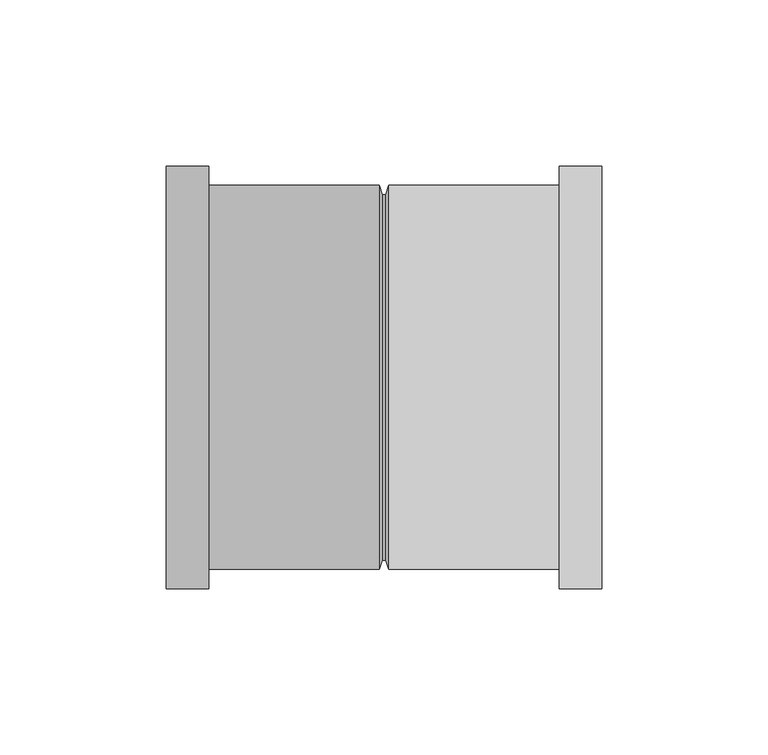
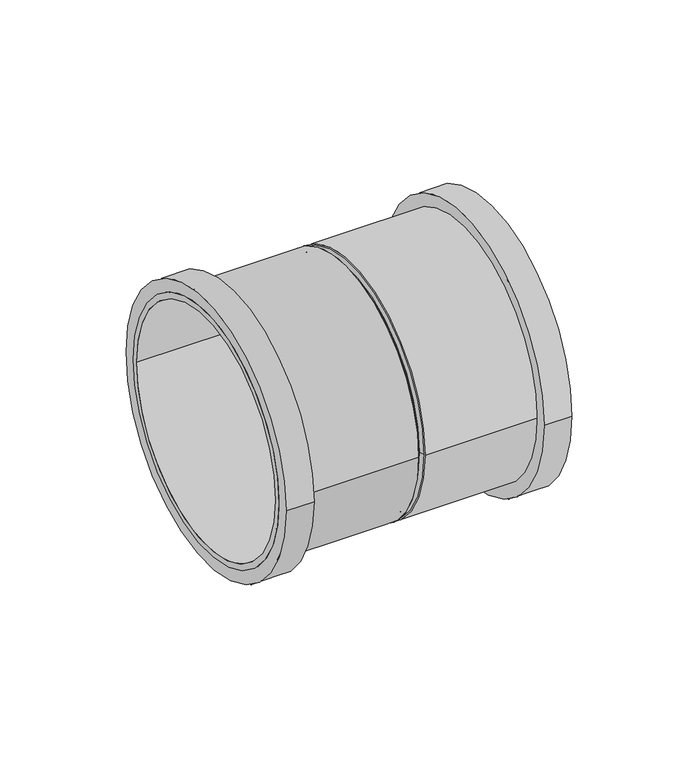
"""IFC4 building model written with IfcOpenShell, lengths in millimetres: pipe fitting geometry, Superdrain HTMM-Double socket : Superdrain HTMM-Double socket."""

import ifcopenshell
import ifcopenshell.guid

model = None  # the IFC model being written
_history = None  # IfcOwnerHistory: only IFC2X3 demands one
_inside = {}  # id of a spatial element -> (the spatial element, [elements in it])
_under = {}  # id of a project, library or spatial element -> (it, [spatial elements below it])
_declared = {}  # id of a project -> (the project, [libraries it declares])
_typed = {}  # id of a type object -> (the type object, [elements of that type])
_made_of = {}  # id of a material, layer set ... -> (it, [elements and type objects made of it])


def new_model(schema):
    """Start an empty IFC model of exactly this schema.

    Asked for "IFC4X3", IfcOpenShell would pick the latest addendum, in which some entities
    have other attributes; the version numbers below select the first issue.
    IFC2X3 requires an IfcOwnerHistory on every rooted entity: one is made here for all.
    """
    global model, _history
    if schema == "IFC4X3":
        model = ifcopenshell.file(schema_version=(4, 3, 0, 0))
    else:
        model = ifcopenshell.file(schema=schema)
    _inside.clear()
    _under.clear()
    _declared.clear()
    _typed.clear()
    _made_of.clear()
    _history = None
    if model.schema == "IFC2X3":
        org = make("IfcOrganization", Name="unknown")
        user = make(
            "IfcPersonAndOrganization",
            ThePerson=make("IfcPerson", FamilyName="unknown"),
            TheOrganization=org,
        )
        app = make(
            "IfcApplication",
            ApplicationDeveloper=org,
            Version="unknown",
            ApplicationFullName="unknown",
            ApplicationIdentifier="unknown",
        )
        _history = make(
            "IfcOwnerHistory",
            OwningUser=user,
            OwningApplication=app,
            ChangeAction="ADDED",
            CreationDate=0,
        )
    return model


def make(cls, **values):
    """One entity of the class cls with the attributes given. An attribute that is None is left unset."""
    return model.create_entity(
        cls, **{name: value for name, value in values.items() if value is not None}
    )


def rooted(cls, **values):
    """An entity with a GlobalId (a new one), such as an element, a storey or a relation."""
    return make(cls, GlobalId=ifcopenshell.guid.new(), OwnerHistory=_history, **values)


def si_unit(unit_type, name, prefix=None):
    """IfcSIUnit, for example si_unit("LENGTHUNIT", "METRE", prefix="MILLI")."""
    return make("IfcSIUnit", UnitType=unit_type, Prefix=prefix, Name=name)


def assignment(units):
    """IfcUnitAssignment: the units of a project."""
    return None if units is None else make("IfcUnitAssignment", Units=units)


def point(xyz):
    """IfcCartesianPoint."""
    return None if xyz is None else make("IfcCartesianPoint", Coordinates=xyz)


def direction(xyz):
    """IfcDirection."""
    return None if xyz is None else make("IfcDirection", DirectionRatios=xyz)


def frame(location, z_axis=None, x_axis=None):
    """IfcAxis2Placement3D, a coordinate frame: its origin and axes. An axis left out is left unset."""
    return make(
        "IfcAxis2Placement3D",
        Location=point(location),
        Axis=direction(z_axis),
        RefDirection=direction(x_axis),
    )


def frame_2d(location, x_axis=None):
    """IfcAxis2Placement2D, a coordinate frame in the plane: its origin and x axis."""
    return make(
        "IfcAxis2Placement2D", Location=point(location), RefDirection=direction(x_axis)
    )


def origin():
    """The frame at (0, 0, 0) with its axes left unset."""
    return frame((0.0, 0.0, 0.0))


def origin_2d():
    """The frame at (0, 0) in the plane with its x axis left unset."""
    return frame_2d((0.0, 0.0))


def place(relative_to, where):
    """IfcLocalPlacement: puts the frame where relative to a parent placement (None: the world)."""
    return make(
        "IfcLocalPlacement", PlacementRelTo=relative_to, RelativePlacement=where
    )


def context(
    kind, dimensions, precision=None, world=None, true_north=None, identifier=None
):
    """IfcGeometricRepresentationContext, for example the 3D "Model" context."""
    return make(
        "IfcGeometricRepresentationContext",
        ContextIdentifier=identifier,
        ContextType=kind,
        CoordinateSpaceDimension=dimensions,
        Precision=precision,
        WorldCoordinateSystem=world,
        TrueNorth=true_north,
    )


def project(units=None, contexts=None):
    """IfcProject with its units and contexts."""
    return rooted(
        "IfcProject",
        Name="project",
        RepresentationContexts=contexts,
        UnitsInContext=assignment(units),
    )


def spatial(cls, under=None, at=None, **own):
    """A site, building, storey or space (cls), placed at a placement, below another one or the project."""
    s = rooted(cls, ObjectPlacement=at, **own)
    if under is not None:
        _under.setdefault(under.id(), (under, []))[1].append(s)
    return s


def polyline(points):
    """IfcPolyline through the points."""
    return make("IfcPolyline", Points=[point(p) for p in points])


def circle_curve(where, radius):
    """IfcCircle in the frame where."""
    return make("IfcCircle", Position=where, Radius=radius)


def trimmed(basis, trim1, trim2, sense, master):
    """IfcTrimmedCurve: the piece of a basis curve between two trims."""
    return make(
        "IfcTrimmedCurve",
        BasisCurve=basis,
        Trim1=trim1,
        Trim2=trim2,
        SenseAgreement=sense,
        MasterRepresentation=master,
    )


def segment(curve, same_sense, transition):
    """IfcCompositeCurveSegment."""
    return make(
        "IfcCompositeCurveSegment",
        Transition=transition,
        SameSense=same_sense,
        ParentCurve=curve,
    )


def composite_curve(segments, self_intersect=None):
    """IfcCompositeCurve: segments joined end to end."""
    return make("IfcCompositeCurve", Segments=segments, SelfIntersect=self_intersect)


def outline(outer, holes=None, kind="AREA"):
    """IfcArbitraryClosedProfileDef: a profile drawn as a closed curve; with holes, ...WithVoids."""
    if holes is None:
        return make("IfcArbitraryClosedProfileDef", ProfileType=kind, OuterCurve=outer)
    return make(
        "IfcArbitraryProfileDefWithVoids",
        ProfileType=kind,
        OuterCurve=outer,
        InnerCurves=holes,
    )


def extrude(swept, where, along, depth):
    """IfcExtrudedAreaSolid: the profile swept, set in the frame where, extruded along a direction by depth."""
    return make(
        "IfcExtrudedAreaSolid",
        SweptArea=swept,
        Position=where,
        ExtrudedDirection=direction(along),
        Depth=depth,
    )


def shape(context_of_items, identifier, shape_type, items):
    """IfcShapeRepresentation: the items that make up one representation, for example the "Body"."""
    return make(
        "IfcShapeRepresentation",
        ContextOfItems=context_of_items,
        RepresentationIdentifier=identifier,
        RepresentationType=shape_type,
        Items=items,
    )


def source(mapping_origin, context_of_items, identifier, shape_type, items):
    """IfcRepresentationMap: a shape defined once, which mapped items show again and again."""
    return make(
        "IfcRepresentationMap",
        MappingOrigin=mapping_origin,
        MappedRepresentation=shape(context_of_items, identifier, shape_type, items),
    )


def transform(
    local_origin,
    x_axis=None,
    y_axis=None,
    z_axis=None,
    scale=None,
    scale2=None,
    scale3=None,
    uniform=True,
):
    """IfcCartesianTransformationOperator3D, or its non-uniform kind. x_axis, y_axis, z_axis: its Axis1, 2, 3."""
    if uniform:
        return make(
            "IfcCartesianTransformationOperator3D",
            Axis1=direction(x_axis),
            Axis2=direction(y_axis),
            LocalOrigin=point(local_origin),
            Scale=scale,
            Axis3=direction(z_axis),
        )
    return make(
        "IfcCartesianTransformationOperator3DnonUniform",
        Axis1=direction(x_axis),
        Axis2=direction(y_axis),
        LocalOrigin=point(local_origin),
        Scale=scale,
        Axis3=direction(z_axis),
        Scale2=scale2,
        Scale3=scale3,
    )


def mapped(mapping_source, mapping_target):
    """IfcMappedItem: shows the shape of a source again, moved by a transform."""
    return make(
        "IfcMappedItem", MappingSource=mapping_source, MappingTarget=mapping_target
    )


def made_of(thing, what):
    """Note that an element or type object is made of a material, layer set ...; save() writes the relation."""
    if what is not None:
        _made_of.setdefault(what.id(), (what, []))[1].append(thing)
    return thing


def element(
    cls,
    number,
    at=None,
    inside=None,
    cuts=None,
    type_object=None,
    material=None,
    context=None,
    identifier="Body",
    shape_type=None,
    held_by="IfcProductDefinitionShape",
    body=None,
    shapes=None,
    **own,
):
    """One element of the class cls, such as IfcWall. Its Tag is "e" and its number.

    at: its placement. inside: the storey or other place that contains it. cuts: it is an
    opening in that element (IfcRelVoidsElement). A single representation is given by context,
    identifier, shape_type and body (its items); several are given by shapes. held_by: the class
    of the entity that holds the representations. save() writes the other relations.
    """
    e = rooted(cls, Tag="e%d" % number, ObjectPlacement=at, **own)
    if body is not None:
        shapes = [shape(context, identifier, shape_type, body)]
    if shapes is not None:
        e.Representation = make(held_by, Representations=shapes)
    if inside is not None:
        _inside.setdefault(inside.id(), (inside, []))[1].append(e)
    if cuts is not None:
        rooted(
            "IfcRelVoidsElement", RelatingBuildingElement=cuts, RelatedOpeningElement=e
        )
    if type_object is not None:
        _typed.setdefault(type_object.id(), (type_object, []))[1].append(e)
    return made_of(e, material)


def aggregate(whole, parts):
    """IfcRelAggregates: a whole, such as a stair, and the parts it consists of."""
    return rooted("IfcRelAggregates", RelatingObject=whole, RelatedObjects=parts)


def save(model, path):
    """Write the relations noted so far, then the file.

    IfcRelAggregates (storeys below a building ...), IfcRelContainedInSpatialStructure (elements
    in a storey), IfcRelDefinesByType, IfcRelAssociatesMaterial and IfcRelDeclares: one each for
    every whole, place, type object, material and project.
    """
    for whole, parts in _under.values():
        aggregate(whole, parts)
    for where, things in _inside.values():
        rooted(
            "IfcRelContainedInSpatialStructure",
            RelatedElements=things,
            RelatingStructure=where,
        )
    for kind, things in _typed.values():
        rooted("IfcRelDefinesByType", RelatedObjects=things, RelatingType=kind)
    for what, things in _made_of.values():
        rooted("IfcRelAssociatesMaterial", RelatedObjects=things, RelatingMaterial=what)
    for by, libraries in _declared.values():
        rooted("IfcRelDeclares", RelatingContext=by, RelatedDefinitions=libraries)
    model.write(path)


def plane_surface(at):
    """IfcPlane: the flat surface through the origin of the frame at, square to its z axis."""
    return make("IfcPlane", Position=at)


def revolved_surface(curve, axis_point, axis_direction):
    """IfcSurfaceOfRevolution: the curve turned about the line through axis_point along axis_direction."""
    return make(
        "IfcSurfaceOfRevolution",
        SweptCurve=make("IfcArbitraryOpenProfileDef", ProfileType="CURVE", Curve=curve),
        AxisPosition=make("IfcAxis1Placement", Location=point(axis_point), Axis=direction(axis_direction)),
    )


def advanced_brep(points, edges, surfaces, faces):
    """IfcAdvancedBrep: a solid bounded by faces that lie on surfaces and meet in shared edges.

    An edge is (start, end): straight between two places in points (the first is 0);
    or (start, end, curve); or (start, end, curve, False) where it runs against its curve.
    A face is (place in surfaces, loops), or (place, loops, False) where it looks against
    its surface's normal. A loop lists edges by number (the first is 1), with a minus sign
    where the edge is run from its end to its start. The first loop is the outer one.
    """
    corners = [point(p) for p in points]
    vertices = [make("IfcVertexPoint", VertexGeometry=c) for c in corners]
    made = []
    for start, end, *more in edges:
        made.append(
            make(
                "IfcEdgeCurve",
                EdgeStart=vertices[start],
                EdgeEnd=vertices[end],
                EdgeGeometry=more[0] if more else make("IfcPolyline", Points=[corners[start], corners[end]]),
                SameSense=more[1] if len(more) > 1 else True,
            )
        )
    hull = []
    for where, loops, *sense in faces:
        bounds = []
        for j, loop in enumerate(loops):
            ring = [make("IfcOrientedEdge", EdgeElement=made[abs(k) - 1], Orientation=k > 0) for k in loop]
            bounds.append(
                make(
                    "IfcFaceOuterBound" if j == 0 else "IfcFaceBound",
                    Bound=make("IfcEdgeLoop", EdgeList=ring),
                    Orientation=True,
                )
            )
        hull.append(make("IfcAdvancedFace", Bounds=bounds, FaceSurface=surfaces[where], SameSense=sense[0] if sense else True))
    return make("IfcAdvancedBrep", Outer=make("IfcClosedShell", CfsFaces=hull))


def pipe_fitting_a972d585(model_context):
    return source(origin(), model_context, "Body", "SolidModel", [
        extrude(outline(composite_curve([segment(trimmed(circle_curve(origin_2d(), 57.75), [point((57.75, 0.0))], [point((-57.75, 0.0))], False, "CARTESIAN"), True, "CONTINUOUS"), segment(trimmed(circle_curve(origin_2d(), 57.75), [point((-57.75, 0.0))], [point((57.75, 0.0))], False, "CARTESIAN"), True, "CONTINUOUS")], self_intersect=False), holes=[composite_curve([segment(trimmed(circle_curve(origin_2d(), 55.0), [point((55.0, 0.0))], [point((-55.0, 0.0))], True, "CARTESIAN"), True, "CONTINUOUS"), segment(trimmed(circle_curve(origin_2d(), 55.0), [point((-55.0, 0.0))], [point((55.0, 0.0))], True, "CARTESIAN"), True, "CONTINUOUS")], self_intersect=False)]), frame((1.5, 0.0, 0.0), z_axis=(1.0, 0.0, 0.0), x_axis=(0.0, 1.0, 0.0)), (0.0, 0.0, 1.0), 64.0),
        extrude(outline(composite_curve([segment(trimmed(circle_curve(origin_2d(), 63.525), [point((63.525, 0.0))], [point((-63.525, 0.0))], False, "CARTESIAN"), True, "CONTINUOUS"), segment(trimmed(circle_curve(origin_2d(), 63.525), [point((-63.525, 0.0))], [point((63.525, 0.0))], False, "CARTESIAN"), True, "CONTINUOUS")], self_intersect=False), holes=[composite_curve([segment(trimmed(circle_curve(origin_2d(), 55.0), [point((55.0, 0.0))], [point((-55.0, 0.0))], True, "CARTESIAN"), True, "CONTINUOUS"), segment(trimmed(circle_curve(origin_2d(), 55.0), [point((-55.0, 0.0))], [point((55.0, 0.0))], True, "CARTESIAN"), True, "CONTINUOUS")], self_intersect=False)]), frame((52.7, 0.0, 0.0), z_axis=(1.0, 0.0, 0.0), x_axis=(0.0, 1.0, 0.0)), (0.0, 0.0, 1.0), 12.8),
        advanced_brep(
        [(0.5, 55.0, 0.0), (0.5, -55.0, 0.0), (1.5, 57.75, 0.0), (1.5, -57.75, 0.0)],
        [
            (0, 1, circle_curve(frame((0.5, 0.0, 0.0), z_axis=(-1.0, 0.0, 0.0), x_axis=(0.0, 1.0000000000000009, 0.0)), 55.0)),
            (1, 0, circle_curve(frame((0.5, 0.0, 0.0), z_axis=(-1.0, 0.0, 0.0), x_axis=(0.0, -1.0000000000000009, 0.0)), 55.0)),
            (2, 3, circle_curve(frame((1.5, 0.0, 0.0), z_axis=(1.0, 0.0, 0.0), x_axis=(0.0, -1.0000000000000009, 0.0)), 57.75)),
            (3, 2, circle_curve(frame((1.5, 0.0, 0.0), z_axis=(1.0, 0.0, 0.0), x_axis=(0.0, 1.0000000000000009, 0.0)), 57.75)),
            (3, 1),
            (0, 2),
        ],
        [
            plane_surface(frame((0.5, 0.0, 0.0), z_axis=(-1.0, 0.0, 0.0), x_axis=(0.0, 0.0, -1.0))),
            plane_surface(frame((1.5, 0.0, 0.0), z_axis=(1.0, 0.0, 0.0), x_axis=(0.0, 0.0, -1.0))),
            revolved_surface(polyline([(0.49999999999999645, 54.99999999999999, 0.0), (1.5, 57.75, 0.0)]), (-19.5, 0.0, 0.0), (1.0000000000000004, 0.0, 0.0)),
            revolved_surface(polyline([(0.49999999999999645, -54.99999999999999, 0.0), (1.5, -57.75, 0.0)]), (-19.5, 0.0, 0.0), (1.0000000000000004, 0.0, 0.0)),
        ],
        [
            (0, [[1, 2]]),
            (1, [[3, 4]]),
            (2, [[-4, 5, -1, 6]]),
            (3, [[-3, -6, -2, -5]]),
        ],
    ),
        extrude(outline(composite_curve([segment(trimmed(circle_curve(origin_2d(), 57.75), [point((-57.75, 0.0))], [point((57.75, 0.0))], False, "CARTESIAN"), True, "CONTINUOUS"), segment(trimmed(circle_curve(origin_2d(), 57.75), [point((57.75, 0.0))], [point((-57.75, 0.0))], False, "CARTESIAN"), True, "CONTINUOUS")], self_intersect=False), holes=[composite_curve([segment(trimmed(circle_curve(origin_2d(), 55.0), [point((-55.0, 0.0))], [point((55.0, 0.0))], True, "CARTESIAN"), True, "CONTINUOUS"), segment(trimmed(circle_curve(origin_2d(), 55.0), [point((55.0, 0.0))], [point((-55.0, 0.0))], True, "CARTESIAN"), True, "CONTINUOUS")], self_intersect=False)]), frame((-65.5, 0.0, 0.0), z_axis=(1.0, 0.0, 0.0), x_axis=(0.0, 1.0, 0.0)), (0.0, 0.0, 1.0), 64.0),
        extrude(outline(composite_curve([segment(trimmed(circle_curve(origin_2d(), 63.525), [point((-63.525, 0.0))], [point((63.525, 0.0))], False, "CARTESIAN"), True, "CONTINUOUS"), segment(trimmed(circle_curve(origin_2d(), 63.525), [point((63.525, 0.0))], [point((-63.525, 0.0))], False, "CARTESIAN"), True, "CONTINUOUS")], self_intersect=False), holes=[composite_curve([segment(trimmed(circle_curve(origin_2d(), 55.0), [point((-55.0, 0.0))], [point((55.0, 0.0))], True, "CARTESIAN"), True, "CONTINUOUS"), segment(trimmed(circle_curve(origin_2d(), 55.0), [point((55.0, 0.0))], [point((-55.0, 0.0))], True, "CARTESIAN"), True, "CONTINUOUS")], self_intersect=False)]), frame((-65.5, 0.0, 0.0), z_axis=(1.0, 0.0, 0.0), x_axis=(0.0, 1.0, 0.0)), (0.0, 0.0, 1.0), 12.8),
        advanced_brep(
        [(-0.5, -55.0, 0.0), (-0.5, 55.0, 0.0), (-1.5, -57.75, 0.0), (-1.5, 57.75, 0.0)],
        [
            (0, 1, circle_curve(frame((-0.5, 0.0, 0.0), z_axis=(1.0, 0.0, 0.0), x_axis=(0.0, -1.0, 0.0)), 55.0)),
            (1, 0, circle_curve(frame((-0.5, 0.0, 0.0), z_axis=(1.0, 0.0, 0.0), x_axis=(0.0, 1.0, 0.0)), 55.0)),
            (2, 3, circle_curve(frame((-1.5, 0.0, 0.0), z_axis=(-1.0, 0.0, 0.0), x_axis=(0.0, 1.0, 0.0)), 57.75)),
            (3, 2, circle_curve(frame((-1.5, 0.0, 0.0), z_axis=(-1.0, 0.0, 0.0), x_axis=(0.0, -1.0, 0.0)), 57.75)),
            (3, 1),
            (0, 2),
        ],
        [
            plane_surface(frame((-0.5, 0.0, 0.0), z_axis=(1.0, 0.0, 0.0), x_axis=(0.0, 0.0, -1.0))),
            plane_surface(frame((-1.5, 0.0, 0.0), z_axis=(-1.0, 0.0, 0.0), x_axis=(0.0, 0.0, -1.0))),
            revolved_surface(polyline([(-0.5, -55.0, 0.0), (-1.5, -57.75, 0.0)]), (19.5, 0.0, 0.0), (-1.0, 0.0, 0.0)),
            revolved_surface(polyline([(-0.5, 55.0, 0.0), (-1.5, 57.75, 0.0)]), (19.5, 0.0, 0.0), (-1.0, 0.0, 0.0)),
        ],
        [
            (0, [[1, 2]]),
            (1, [[3, 4]]),
            (2, [[-4, 5, -1, 6]]),
            (3, [[-3, -6, -2, -5]]),
        ],
    ),
        extrude(outline(composite_curve([segment(trimmed(circle_curve(origin_2d(), 55.0), [point((-55.0, 0.0))], [point((55.0, 0.0))], False, "CARTESIAN"), True, "CONTINUOUS"), segment(trimmed(circle_curve(origin_2d(), 55.0), [point((55.0, 0.0))], [point((-55.0, 0.0))], False, "CARTESIAN"), True, "CONTINUOUS")], self_intersect=False)), frame((-1.5, 0.0, 0.0), z_axis=(1.0, 0.0, 0.0), x_axis=(0.0, 1.0, 0.0)), (0.0, 0.0, 1.0), 3.0),
    ])


if __name__ == "__main__":
    model = new_model("IFC4")
    model_context = context("Model", 3, world=origin())
    ifc_project = project(units=[si_unit("LENGTHUNIT", "METRE", prefix="MILLI")], contexts=[model_context])
    site = spatial("IfcSite", under=ifc_project)
    building = spatial("IfcBuilding", under=site)
    placement = place(None, origin())
    pipe_fitting_shape = pipe_fitting_a972d585(model_context)
    element("IfcPipeFitting", 1, ObjectType="Superdrain HTMM-Double socket : Superdrain HTMM-Double socket", at=placement, inside=building, context=model_context, shape_type="MappedRepresentation", body=[
        mapped(pipe_fitting_shape, transform((0.0, 0.0, 0.0), x_axis=(1.0, 0.0, 0.0), y_axis=(0.0, 1.0, 0.0), z_axis=(0.0, 0.0, 1.0))),
    ])
    save(model, "model.ifc")
